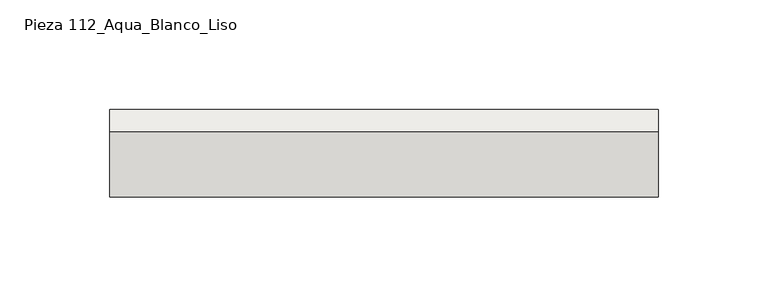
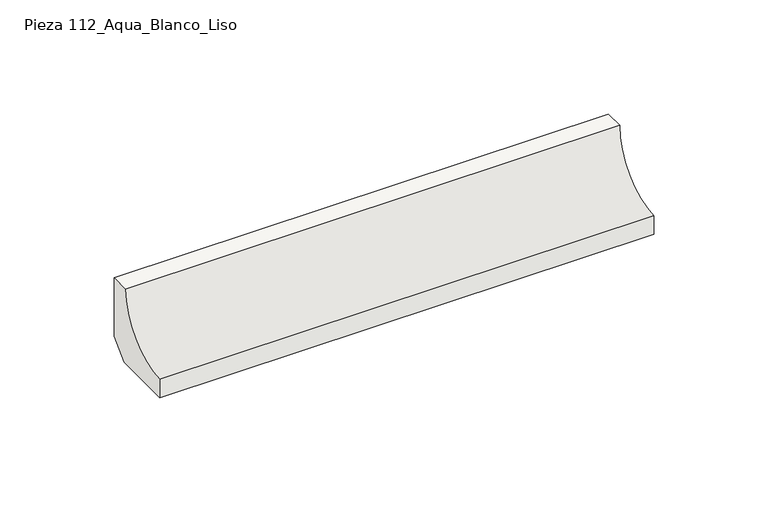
"""IFC4 building model written with IfcOpenShell, lengths in millimetres: slab geometry, ROSA GRES_112 : Pieza 112_Aqua_Blanco_Liso."""

from ifc_helpers import new_model, si_unit, point, frame, frame_2d, origin, place, context, project, spatial, polyline, circle_curve, trimmed, segment, composite_curve, outline, extrude, source, transform, mapped, element, save


def pieza_112_aqua_blanco_liso_06e044f1(model_context):
    return source(origin(), model_context, "Body", "SweptSolid", [
        extrude(outline(composite_curve([segment(polyline([(9.9734114, 8.7114978), (1.2619137, 0.0), (-30.0265886, 0.0), (-30.0265886, 9.9734114)]), True, "CONTINUOUS"), segment(trimmed(circle_curve(frame_2d((-30.0221432, 39.9955547)), 30.0221435), [point((-30.0265886, 9.9734114))], [point((0.0, 40.0))], True, "CARTESIAN"), True, "CONTINUOUS"), segment(polyline([(0.0, 40.0), (9.9734114, 40.0), (9.9734114, 8.7114978)]), True, "CONTINUOUS")], self_intersect=False)), frame((0.0, 0.0, 0.0), z_axis=(1.0, 0.0, 0.0), x_axis=(0.0, 1.0, 0.0)), (0.0, 0.0, 1.0), 250.0),
    ])


if __name__ == "__main__":
    model = new_model("IFC4")
    model_context = context("Model", 3, world=origin())
    ifc_project = project(units=[si_unit("LENGTHUNIT", "METRE", prefix="MILLI")], contexts=[model_context])
    site = spatial("IfcSite", under=ifc_project)
    building = spatial("IfcBuilding", under=site)
    placement = place(None, origin())
    pieza_112_aqua_blanco_liso_shape = pieza_112_aqua_blanco_liso_06e044f1(model_context)
    element("IfcSlab", 1, ObjectType="ROSA GRES_112 : Pieza 112_Aqua_Blanco_Liso", at=placement, inside=building, context=model_context, shape_type="MappedRepresentation", body=[
        mapped(pieza_112_aqua_blanco_liso_shape, transform((0.0, 0.0, 0.0), x_axis=(1.0, 0.0, 0.0), y_axis=(0.0, 1.0, 0.0), z_axis=(0.0, 0.0, 1.0))),
    ])
    save(model, "model.ifc")
